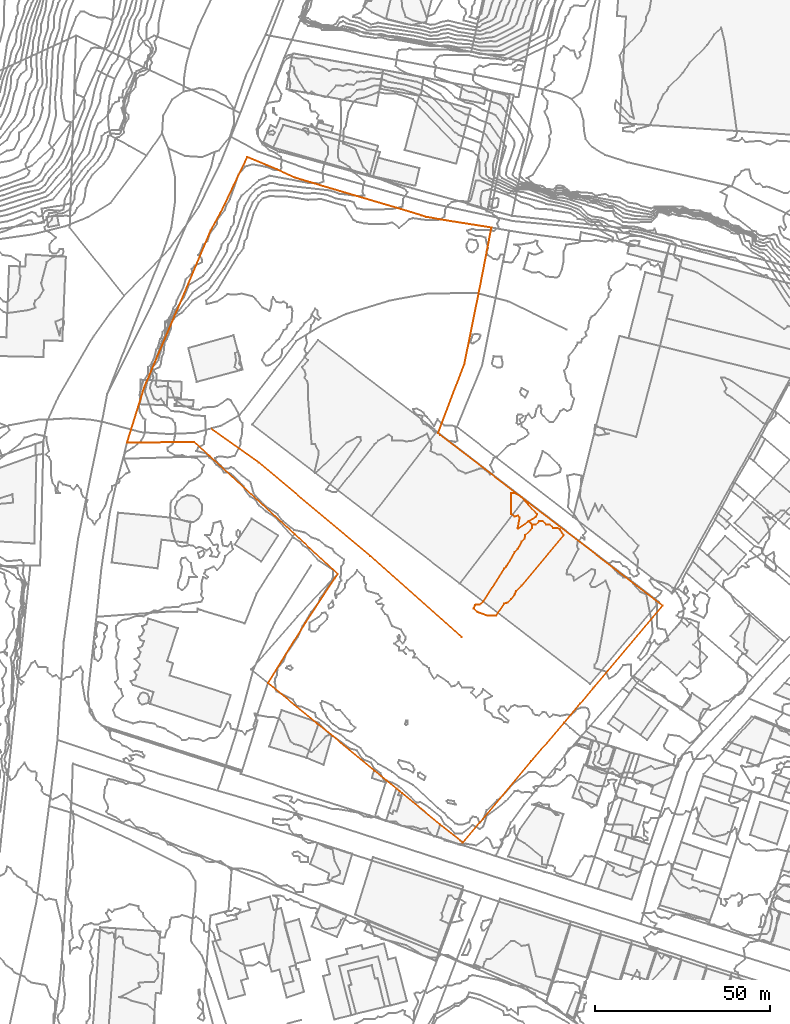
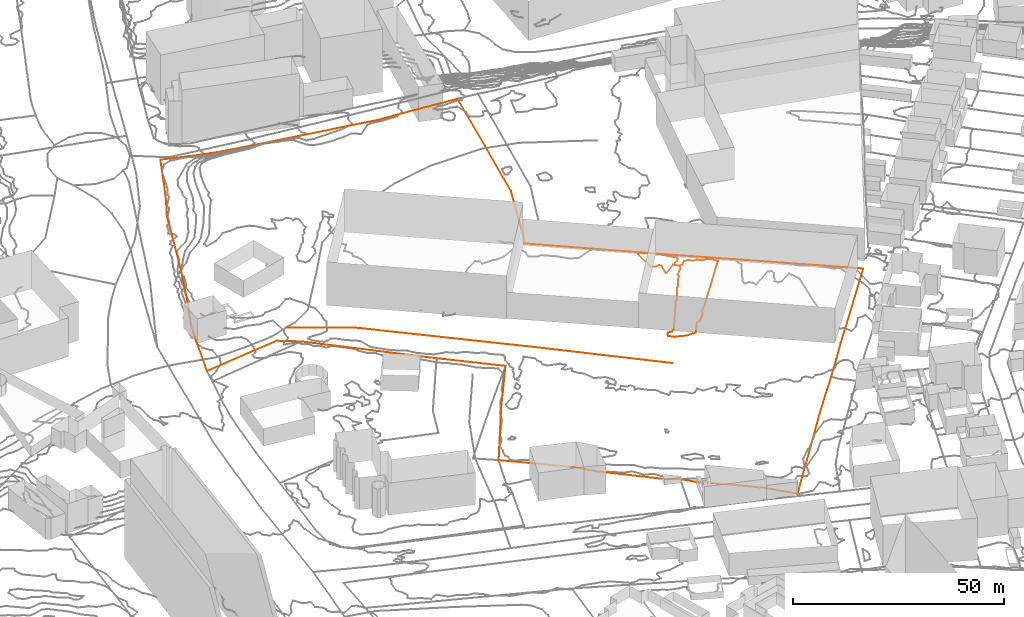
# Not in any storey, part 212 of 419: 3 proxies.
"""IFC2X3 model written with IfcOpenShell, lengths in metres."""

from ifc_helpers import new_model, entity, si_unit, frame, origin_with_axes, place, context, subcontext, project, element, save


model = new_model("IFC2X3")

# Units and contexts
model_context = context("Model", 3, precision=1e-05, world=origin_with_axes())
body_context = subcontext(model_context, "Body", "Model", "MODEL_VIEW")
ifc_project = project(units=[si_unit("AREAUNIT", "SQUARE_METRE"), si_unit("LENGTHUNIT", "METRE")], contexts=[model_context])

# Proxies
proxy_1_placement = place(None, frame((737.2920204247, 298.3976909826, 78.5), z_axis=(0.0, 0.0, 1.0), x_axis=(1.0, 0.0, 0.0)))
element("IfcBuildingElementProxy", 1, at=proxy_1_placement, Name="Route 251", ObjectType="NOTDEFINED", context=body_context, shape_type="GeometricCurveSet", body=[
    entity("IfcGeometricCurveSet", [entity("IfcPolyline", [entity("IfcCartesianPoint", [0.0, 0.0, 0.0]), entity("IfcCartesianPoint", [13.6000000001, -9.7000000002, 1.1]), entity("IfcCartesianPoint", [45.5, -36.4000000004, 0.7]), entity("IfcCartesianPoint", [71.6000000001, -59.5999999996, 0.8])])]),
])
proxy_2_placement = place(None, frame((713.3320204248, 294.337690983, 76.8174222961), z_axis=(0.0, 0.0, 1.0), x_axis=(1.0, 0.0, 0.0)))
element("IfcBuildingElementProxy", 2, at=proxy_2_placement, Name="Cadastre 106", ObjectType="NOTDEFINED", context=body_context, shape_type="GeometricCurveSet", body=[
    entity("IfcGeometricCurveSet", [entity("IfcPolyline", [entity("IfcCartesianPoint", [74.17, -96.54, 1.143275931]), entity("IfcCartesianPoint", [70.5800000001, -93.6400000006, 0.8256586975]), entity("IfcCartesianPoint", [58.6800000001, -83.7600000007, 1.1004676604]), entity("IfcCartesianPoint", [54.3300000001, -80.2600000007, 1.7367903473]), entity("IfcCartesianPoint", [40.28, -68.7200000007, 1.7009906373]), entity("IfcCartesianPoint", [50.91, -51.4800000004, 2.7854276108]), entity("IfcCartesianPoint", [59.3300000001, -38.7600000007, 2.9729850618]), entity("IfcCartesianPoint", [60.1900000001, -37.4800000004, 3.0966303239]), entity("IfcCartesianPoint", [47.8300000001, -26.1500000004, 2.7580865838]), entity("IfcCartesianPoint", [23.5800000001, -3.8799999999, 2.6221947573]), entity("IfcCartesianPoint", [19.16, 0.1799999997, 1.9112155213]), entity("IfcCartesianPoint", [0.0, 0.0, 0.0]), entity("IfcCartesianPoint", [4.98, 15.9799999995, 1.3487717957]), entity("IfcCartesianPoint", [7.12, 21.0, 2.9802165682]), entity("IfcCartesianPoint", [13.01, 34.8099999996, 3.5969511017]), entity("IfcCartesianPoint", [23.89, 60.5299999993, 0.276806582]), entity("IfcCartesianPoint", [26.5700000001, 65.3700000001, 0.2826776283]), entity("IfcCartesianPoint", [30.4400000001, 73.4100000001, 0.301076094]), entity("IfcCartesianPoint", [34.35, 81.5999999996, -0.2905067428]), entity("IfcCartesianPoint", [42.7100000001, 78.0899999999, 0.2377727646]), entity("IfcCartesianPoint", [47.99, 75.6699999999, 0.9387592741]), entity("IfcCartesianPoint", [76.6900000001, 67.1600000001, 3.2463952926]), entity("IfcCartesianPoint", [84.0900000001, 64.9299999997, 3.8629429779]), entity("IfcCartesianPoint", [85.41, 64.4899999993, 4.094567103]), entity("IfcCartesianPoint", [91.04, 63.5099999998, 4.4972278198]), entity("IfcCartesianPoint", [104.0900000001, 61.4299999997, 5.1560318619]), entity("IfcCartesianPoint", [100.26, 41.6600000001, 4.910576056]), entity("IfcCartesianPoint", [96.39, 22.6299999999, 4.6010598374]), entity("IfcCartesianPoint", [88.8400000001, 2.7199999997, 4.1887201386]), entity("IfcCartesianPoint", [89.47, 2.1999999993, 4.1937473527]), entity("IfcCartesianPoint", [114.5900000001, -17.1100000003, 4.1508846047]), entity("IfcCartesianPoint", [152.99, -46.5800000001, 4.3487065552]), entity("IfcCartesianPoint", [133.3, -69.9700000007, 3.7659393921]), entity("IfcCartesianPoint", [129.4, -74.6000000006, 3.2915228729]), entity("IfcCartesianPoint", [124.9, -79.9400000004, 3.0005791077]), entity("IfcCartesianPoint", [115.4600000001, -91.0, 2.6535398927]), entity("IfcCartesianPoint", [95.92, -114.2700000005, 0.1505453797]), entity("IfcCartesianPoint", [89.49, -109.1299999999, 0.9669299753]), entity("IfcCartesianPoint", [78.5600000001, -100.1600000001, 0.9567386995]), entity("IfcCartesianPoint", [77.88, -99.5500000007, 0.9243963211]), entity("IfcCartesianPoint", [77.0, -98.8700000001, 0.8243684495]), entity("IfcCartesianPoint", [74.17, -96.54, 1.143275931])])]),
])
proxy_3_placement = place(None, frame((812.364735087, 246.8976909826, 81.0), z_axis=(0.0, 0.0, 1.0), x_axis=(1.0, 0.0, 0.0)))
element("IfcBuildingElementProxy", 3, at=proxy_3_placement, Name="Contour 81.0 m", ObjectType="NOTDEFINED", context=body_context, shape_type="GeometricCurveSet", body=[
    entity("IfcGeometricCurveSet", [entity("IfcPolyline", [entity("IfcCartesianPoint", [6.3938672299, -2.0, 0.0]), entity("IfcCartesianPoint", [3.9273158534, -2.0, 0.0]), entity("IfcCartesianPoint", [1.1119097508, -1.0, 0.0]), entity("IfcCartesianPoint", [0.0, 0.0, 0.0]), entity("IfcCartesianPoint", [0.3383988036, 1.0, 0.0]), entity("IfcCartesianPoint", [0.7272853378, 1.25, 0.0]), entity("IfcCartesianPoint", [1.7272853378, 1.2307647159, 0.0]), entity("IfcCartesianPoint", [2.7272753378, 2.0, 0.0]), entity("IfcCartesianPoint", [8.7272853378, 11.5000166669, 0.0]), entity("IfcCartesianPoint", [9.3273158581, 12.0, 0.0]), entity("IfcCartesianPoint", [11.7272853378, 16.1666878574, 0.0]), entity("IfcCartesianPoint", [12.5605974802, 17.0, 0.0]), entity("IfcCartesianPoint", [13.7272853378, 19.2000305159, 0.0]), entity("IfcCartesianPoint", [14.5272548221, 20.0, 0.0]), entity("IfcCartesianPoint", [14.7272853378, 21.0000166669, 0.0]), entity("IfcCartesianPoint", [16.7272520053, 23.0, 0.0]), entity("IfcCartesianPoint", [16.7272728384, 24.0, 0.0]), entity("IfcCartesianPoint", [15.7272853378, 24.9999875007, 0.0]), entity("IfcCartesianPoint", [12.7272853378, 22.8749761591, 0.0]), entity("IfcCartesianPoint", [12.5605974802, 23.0, 0.0]), entity("IfcCartesianPoint", [13.1272548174, 26.0, 0.0]), entity("IfcCartesianPoint", [12.7272853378, 26.6665818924, 0.0]), entity("IfcCartesianPoint", [11.7272853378, 26.3334181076, 0.0]), entity("IfcCartesianPoint", [10.7272603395, 27.0, 0.0]), entity("IfcCartesianPoint", [10.7272520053, 33.0, 0.0]), entity("IfcCartesianPoint", [11.7272853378, 33.0000142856, 0.0]), entity("IfcCartesianPoint", [13.7272853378, 31.8571117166, 0.0]), entity("IfcCartesianPoint", [18.1273005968, 27.0, 0.0]), entity("IfcCartesianPoint", [17.7272853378, 26.2000305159, 0.0]), entity("IfcCartesianPoint", [15.7273053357, 25.0, 0.0]), entity("IfcCartesianPoint", [16.7272853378, 24.0000199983, 0.0]), entity("IfcCartesianPoint", [17.7272853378, 24.0000999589, 0.0]), entity("IfcCartesianPoint", [18.7272853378, 25.0000999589, 0.0]), entity("IfcCartesianPoint", [19.7273852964, 25.0, 0.0]), entity("IfcCartesianPoint", [20.7272853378, 24.0000999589, 0.0]), entity("IfcCartesianPoint", [21.7272853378, 24.0000099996, 0.0]), entity("IfcCartesianPoint", [22.7272853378, 23.0666802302, 0.0]), entity("IfcCartesianPoint", [23.7272853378, 23.0909280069, 0.0]), entity("IfcCartesianPoint", [24.7272853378, 22.5999999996, 0.0]), entity("IfcCartesianPoint", [25.7273353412, 21.0, 0.0]), entity("IfcCartesianPoint", [13.7272853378, 6.60003052, 0.0]), entity("IfcCartesianPoint", [12.0607034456, 5.0, 0.0]), entity("IfcCartesianPoint", [11.7272996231, 4.0, 0.0]), entity("IfcCartesianPoint", [10.7272853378, 2.7999694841, 0.0]), entity("IfcCartesianPoint", [9.7272853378, 1.7499523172, 0.0]), entity("IfcCartesianPoint", [8.7272853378, 1.4999500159, 0.0]), entity("IfcCartesianPoint", [6.3938672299, -2.0, 0.0])])]),
])

save(model, "model.ifc")
